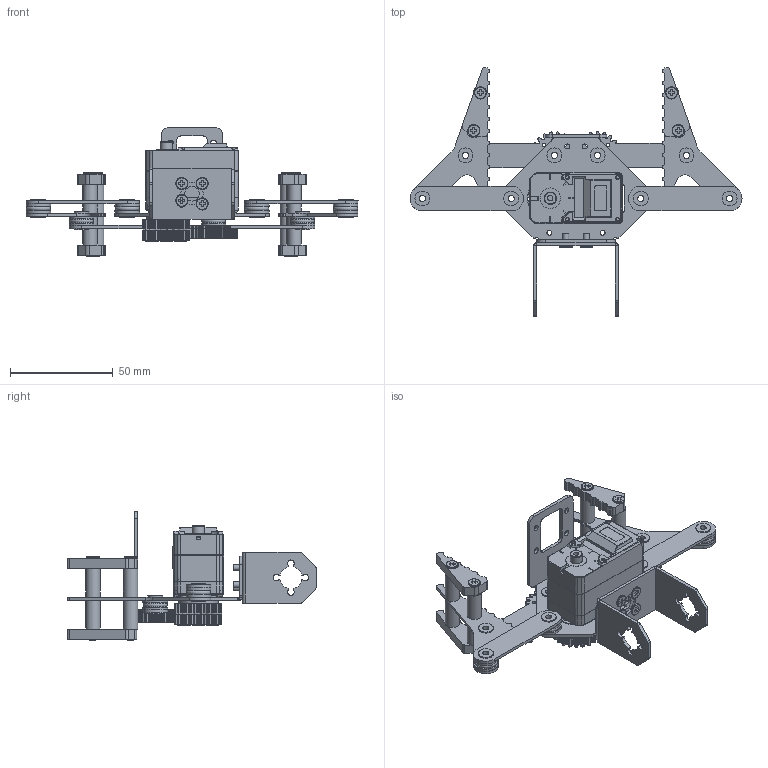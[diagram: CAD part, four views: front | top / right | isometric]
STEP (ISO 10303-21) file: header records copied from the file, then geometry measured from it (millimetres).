
FILE_DESCRIPTION(/* description */ ('','CAx-IF Rec.Pracs.---Representation and Presentation of Product Manufacturing Information (PMI)---4.0---2014-10-13'),/* implementation_level */ '2;1');
FILE_NAME(/* name */ '',/* time_stamp */ '2025-02-10T14:58:46+08:00',/* author */ (''),/* organization */ (''),/* preprocessor_version */ 'ST-DEVELOPER v20',/* originating_system */ 'Autodesk Translation Framework v13.20.0.188',/* authorisation */ '');
FILE_SCHEMA (('AP242_MANAGED_MODEL_BASED_3D_ENGINEERING_MIM_LF { 1 0 10303 442 1 1 4 }'));
Products named in the file (23): 铝合金夹头; 夹头底座; 齿轮臂; 夹头从动臂; 夹头末端; 从动加强齿; 舵机驱动加强齿; MF63ZZ; 平面轴承 F6-12; 夹头末端加强; Theta舵机支架; 黑色金属扁平头螺丝 CM3*6*6; 黑色金属扁平头螺丝 CM3*14*6; 黑色隔离柱3.2*7*14; 黑色金属扁平头螺丝 CM3*6*6_
1; SCS215_4; ZK_122; SG-ZIJI_15; XG-ZIJI_16; MOTOR-1723_3; PCB-CHAZUO_92; GE_27; 金属舵盘（驱动）
Assembly tree (68 placements, depth 3):
  铝合金夹头
    夹头底座
    齿轮臂  x2
    夹头从动臂  x2
    夹头末端  x2
    舵机驱动加强齿  x2
    从动加强齿  x2
    MF63ZZ  x16
    平面轴承 F6-12  x8
    夹头末端加强  x4
    Theta舵机支架
    黑色金属扁平头螺丝 CM3*6*6  x4
    黑色金属扁平头螺丝 CM3*14*6  x4
    黑色隔离柱3.2*7*14  x8
    黑色金属扁平头螺丝 CM3*6*6_
1  x4
    SCS215_4
      ZK_122
      SG-ZIJI_15
      XG-ZIJI_16
      MOTOR-1723_3
      PCB-CHAZUO_92
      GE_27
      金属舵盘（驱动）
Bounding box: 161.4 x 120.87 x 62.56 mm (x, y, z)
Volume: 76716.4 mm3; surface area: 66396.1 mm2
Topology: 67 solids, 77 shells, 4421 faces, 12334 edges, 8163 vertices
Faces by surface type: cylinder 2972, plane 1199, bspline 130, torus 61, cone 45, sphere 14
Full cylindrical faces by diameter (mm): 1 x1, 1.2 x1, 1.5 x1, 1.6 x20, 2 x2, 2.2 x19, 2.4 x12, 2.5 x29, 2.6 x1, 3 x30, 3.2 x23, 3.5 x3, 4 x1, 4.7 x1, 5 x2, 6 x39, 6.1 x1, 6.12 x16, 6.2 x1, 6.5 x2, 7 x8, 7.2 x19, 8 x1, 8.64 x2, 10 x1, 10.5 x1, 10.6 x1, 11 x16, 12 x16, 13.8 x1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
Entity records: 105924 total; most frequent: CARTESIAN_POINT 34153, DIRECTION 15688, ORIENTED_EDGE 14946, EDGE_CURVE 7473, AXIS2_PLACEMENT_3D 6125, VERTEX_POINT 4935, LINE 3438, VECTOR 3438
